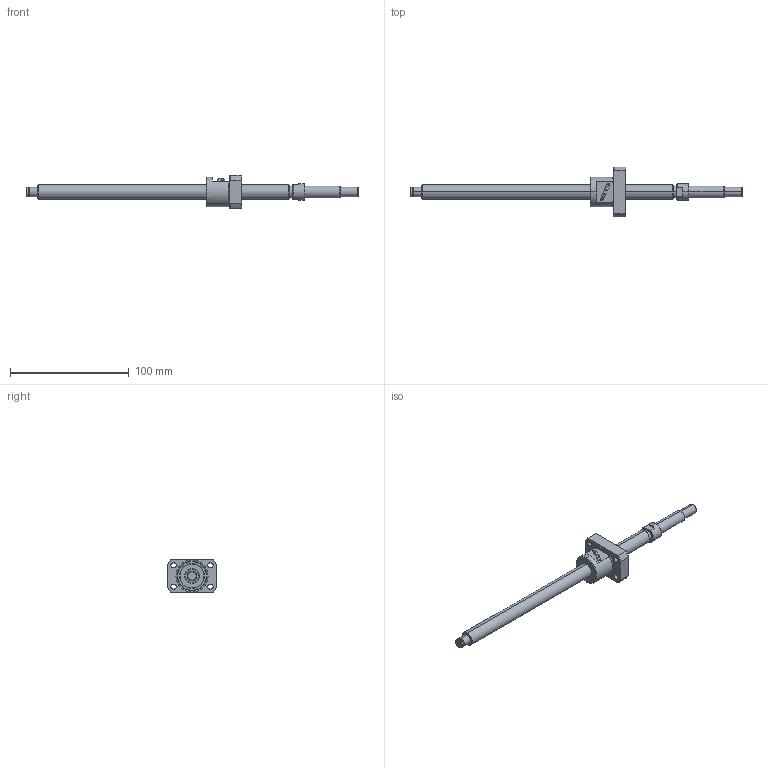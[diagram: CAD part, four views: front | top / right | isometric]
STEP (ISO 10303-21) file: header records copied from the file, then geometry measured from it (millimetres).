
FILE_DESCRIPTION (( 'STEP AP214' ), '1' );
FILE_NAME ('BS1202A-3D.STEP', '2014-03-07T17:47:29', ( '' ), ( '' ), 'SwSTEP 2.0', 'SolidWorks 2012', '' );
FILE_SCHEMA (( 'AUTOMOTIVE_DESIGN' ));
Length unit declared in the file: millimetre
Products named in the file (3): BS1202AŽ²; BS1202Aナット; BS1202A-3D
Assembly tree (2 placements, depth 2):
  BS1202A-3D
    BS1202Aナット
    BS1202AŽ²
Bounding box: 280 x 42 x 28 mm (x, y, z)
Volume: 44634.5 mm3; surface area: 19459.7 mm2
Topology: 5 solids, 5 shells, 161 faces, 405 edges, 263 vertices
Faces by surface type: cylinder 76, plane 45, cone 34, torus 4, bspline 2
Entity records: 6239 total; most frequent: CARTESIAN_POINT 2103, DIRECTION 862, ORIENTED_EDGE 806, EDGE_CURVE 403, AXIS2_PLACEMENT_3D 362, VERTEX_POINT 263, CIRCLE 198, EDGE_LOOP 196
